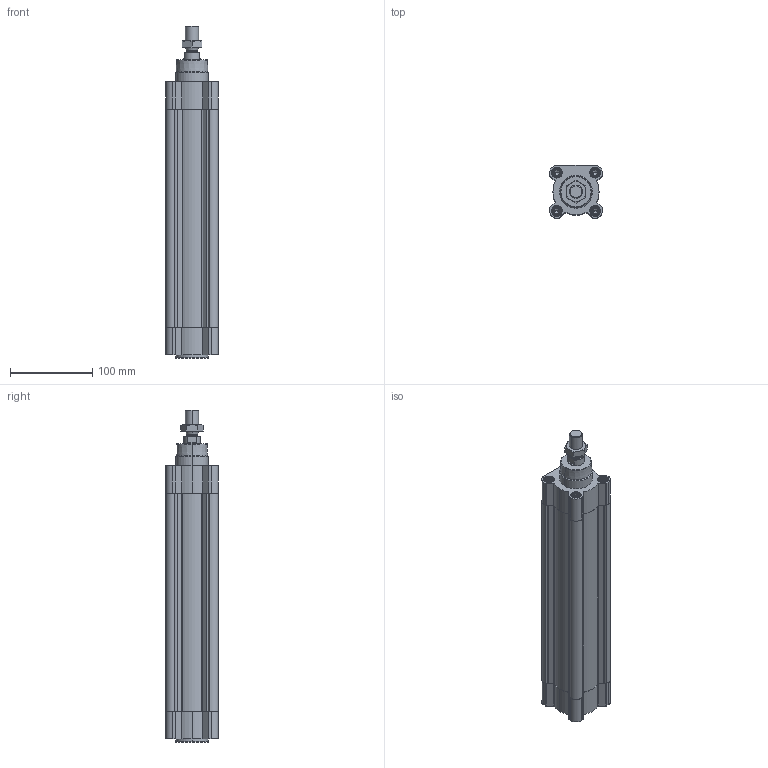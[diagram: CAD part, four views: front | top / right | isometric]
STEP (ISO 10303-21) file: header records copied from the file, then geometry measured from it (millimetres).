
FILE_DESCRIPTION (( 'STEP AP203' ), '1' );
FILE_NAME ('CPME50-225.STEP', '2025-02-20T11:05:10', ( '' ), ( '' ), 'SwSTEP 2.0', 'SolidWorks 2019', '' );
FILE_SCHEMA (( 'CONFIG_CONTROL_DESIGN' ));
Length unit declared in the file: millimetre
Products named in the file (1): CPME50-225
Bounding box: 64 x 64 x 402.8 mm (x, y, z)
Volume: 765947.7 mm3; surface area: 201697.1 mm2
Topology: 3 solids, 3 shells, 639 faces, 1655 edges, 1050 vertices
Faces by surface type: plane 325, cylinder 200, cone 106, torus 8
Entity records: 20033 total; most frequent: CARTESIAN_POINT 4447, ORIENTED_EDGE 3278, DIRECTION 3187, EDGE_CURVE 1639, AXIS2_PLACEMENT_3D 1131, VERTEX_POINT 1050, LINE 925, VECTOR 925
